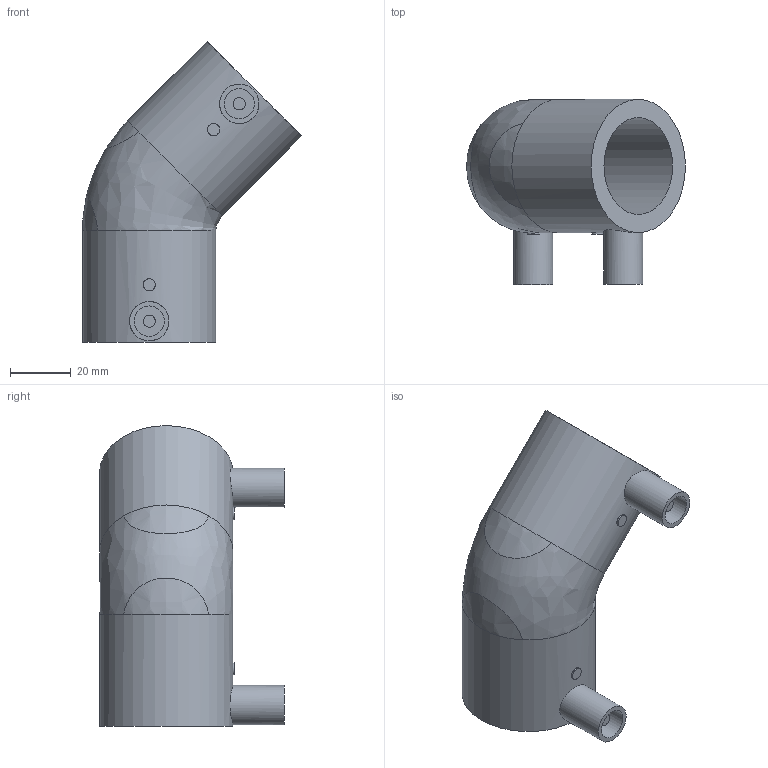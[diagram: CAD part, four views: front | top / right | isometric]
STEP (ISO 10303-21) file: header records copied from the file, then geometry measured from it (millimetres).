
FILE_DESCRIPTION(/* description */ ('Unknown'),/* implementation_level */ '2;1');
FILE_NAME(/* name */ 'GE4P032C',/* time_stamp */ '2020-12-02T08:57:59+01:00',/* author */ ('Unknown'),/* organization */ ('Unknown'),/* preprocessor_version */ 'ST-DEVELOPER v16.7',/* originating_system */ 'Solid Edge',/* authorisation */ 'Unknown');
FILE_SCHEMA (('AUTOMOTIVE_DESIGN {1 0 10303 214 3 1 1}'));
Length unit declared in the file: millimetre
Products named in the file (1): GE4P032C
Bounding box: 72.2 x 61 x 99.2 mm (x, y, z)
Volume: 73872.2 mm3; surface area: 27550.7 mm2
Topology: 1 solids, 1 shells, 30 faces, 56 edges, 38 vertices
Faces by surface type: cylinder 14, plane 12, bspline 4
Full cylindrical faces by diameter (mm): 4 x4, 10 x2, 13 x2, 32 x2, 44 x2
Entity records: 1348 total; most frequent: CARTESIAN_POINT 802, DIRECTION 104, ORIENTED_EDGE 78, EDGE_LOOP 55, FACE_BOUND 55, AXIS2_PLACEMENT_3D 52, EDGE_CURVE 39, VERTEX_POINT 34
